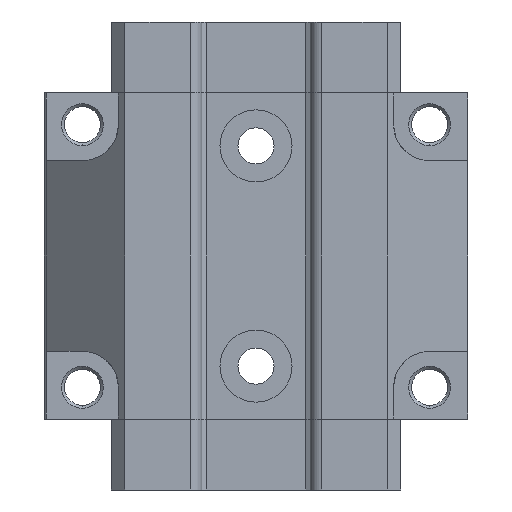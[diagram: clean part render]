
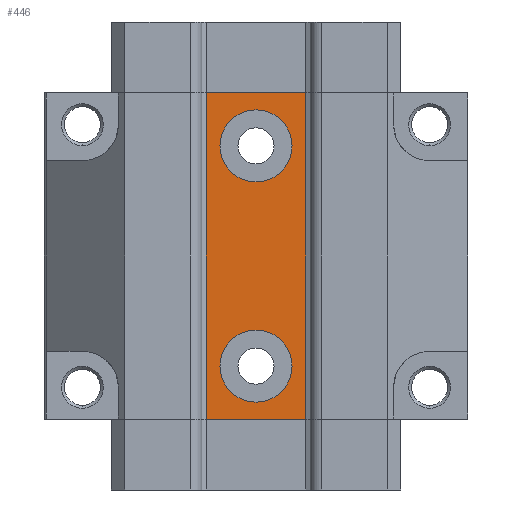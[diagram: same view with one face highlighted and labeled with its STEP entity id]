
A CAD part, front view. The second image highlights one B-rep face of the part: STEP entity #446.
In plain terms, the highlighted planar face has unit normal (0, -1, 0).
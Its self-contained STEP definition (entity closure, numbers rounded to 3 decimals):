
#272 = EDGE_CURVE ( 'NONE', #484, #417, #2221, .T. ) ;
#273 = ORIENTED_EDGE ( 'NONE', *, *, #315, .F. ) ;
#276 = ORIENTED_EDGE ( 'NONE', *, *, #277, .F. ) ;
#277 = EDGE_CURVE ( 'NONE', #372, #375, #2212, .T. ) ;
#278 = ORIENTED_EDGE ( 'NONE', *, *, #371, .T. ) ;
#279 = ORIENTED_EDGE ( 'NONE', *, *, #272, .T. ) ;
#280 = ORIENTED_EDGE ( 'NONE', *, *, #1963, .F. ) ;
#281 = EDGE_LOOP ( 'NONE', ( #276, #278, #279, #273 ) ) ;
#282 = EDGE_LOOP ( 'NONE', ( #283, #280 ) ) ;
#283 = ORIENTED_EDGE ( 'NONE', *, *, #284, .F. ) ;
#284 = EDGE_CURVE ( 'NONE', #1988, #1987, #2207, .T. ) ;
#285 = EDGE_LOOP ( 'NONE', ( #286, #288 ) ) ;
#286 = ORIENTED_EDGE ( 'NONE', *, *, #287, .F. ) ;
#287 = EDGE_CURVE ( 'NONE', #1936, #1933, #2260, .T. ) ;
#288 = ORIENTED_EDGE ( 'NONE', *, *, #1935, .F. ) ;
#315 = EDGE_CURVE ( 'NONE', #375, #417, #2309, .T. ) ;
#371 = EDGE_CURVE ( 'NONE', #372, #484, #2380, .T. ) ;
#372 = VERTEX_POINT ( 'NONE', #2392 ) ;
#375 = VERTEX_POINT ( 'NONE', #2394 ) ;
#417 = VERTEX_POINT ( 'NONE', #2462 ) ;
#446 = ADVANCED_FACE ( 'NONE', ( #2496, #2495, #2494 ), #2520, .F. ) ;
#484 = VERTEX_POINT ( 'NONE', #2635 ) ;
#1933 = VERTEX_POINT ( 'NONE', #4325 ) ;
#1935 = EDGE_CURVE ( 'NONE', #1933, #1936, #4331, .T. ) ;
#1936 = VERTEX_POINT ( 'NONE', #4332 ) ;
#1963 = EDGE_CURVE ( 'NONE', #1987, #1988, #4170, .T. ) ;
#1987 = VERTEX_POINT ( 'NONE', #4471 ) ;
#1988 = VERTEX_POINT ( 'NONE', #4476 ) ;
#2203 = DIRECTION ( 'NONE',  ( 0., 0., -1. ) ) ;
#2204 = DIRECTION ( 'NONE',  ( 0., -1., 0. ) ) ;
#2205 = CARTESIAN_POINT ( 'NONE',  ( 0., 4.6, -26. ) ) ;
#2206 = AXIS2_PLACEMENT_3D ( 'NONE', #2205, #2204, #2203 ) ;
#2207 = CIRCLE ( 'NONE', #2206, 8.5 ) ;
#2209 = DIRECTION ( 'NONE',  ( 0., 0., 1. ) ) ;
#2210 = VECTOR ( 'NONE', #2209, 1000. ) ;
#2211 = CARTESIAN_POINT ( 'NONE',  ( -15.761, 4.6, -55.25 ) ) ;
#2212 = LINE ( 'NONE', #2211, #2210 ) ;
#2218 = DIRECTION ( 'NONE',  ( 0., 0., 1. ) ) ;
#2219 = VECTOR ( 'NONE', #2218, 1000. ) ;
#2220 = CARTESIAN_POINT ( 'NONE',  ( 15.761, 4.6, -55.25 ) ) ;
#2221 = LINE ( 'NONE', #2220, #2219 ) ;
#2255 = CARTESIAN_POINT ( 'NONE',  ( 0., 4.6, 26. ) ) ;
#2257 = DIRECTION ( 'NONE',  ( 0., 0., -1. ) ) ;
#2258 = DIRECTION ( 'NONE',  ( 0., -1., 0. ) ) ;
#2259 = AXIS2_PLACEMENT_3D ( 'NONE', #2255, #2258, #2257 ) ;
#2260 = CIRCLE ( 'NONE', #2259, 8.5 ) ;
#2306 = DIRECTION ( 'NONE',  ( 1., 0., 0. ) ) ;
#2307 = VECTOR ( 'NONE', #2306, 1000. ) ;
#2308 = CARTESIAN_POINT ( 'NONE',  ( -50., 4.6, 38.5 ) ) ;
#2309 = LINE ( 'NONE', #2308, #2307 ) ;
#2380 = LINE ( 'NONE', #2391, #2390 ) ;
#2389 = DIRECTION ( 'NONE',  ( 1., 0., 0. ) ) ;
#2390 = VECTOR ( 'NONE', #2389, 1000. ) ;
#2391 = CARTESIAN_POINT ( 'NONE',  ( -50., 4.6, -38.5 ) ) ;
#2392 = CARTESIAN_POINT ( 'NONE',  ( -15.761, 4.6, -38.5 ) ) ;
#2394 = CARTESIAN_POINT ( 'NONE',  ( -15.761, 4.6, 38.5 ) ) ;
#2462 = CARTESIAN_POINT ( 'NONE',  ( 15.761, 4.6, 38.5 ) ) ;
#2494 = FACE_OUTER_BOUND ( 'NONE', #281, .T. ) ;
#2495 = FACE_BOUND ( 'NONE', #282, .T. ) ;
#2496 = FACE_BOUND ( 'NONE', #285, .T. ) ;
#2516 = DIRECTION ( 'NONE',  ( 0., 0., 1. ) ) ;
#2517 = DIRECTION ( 'NONE',  ( 0., 1., 0. ) ) ;
#2518 = CARTESIAN_POINT ( 'NONE',  ( -15.761, 4.6, -55.25 ) ) ;
#2519 = AXIS2_PLACEMENT_3D ( 'NONE', #2518, #2517, #2516 ) ;
#2520 = PLANE ( 'NONE',  #2519 ) ;
#2635 = CARTESIAN_POINT ( 'NONE',  ( 15.761, 4.6, -38.5 ) ) ;
#4165 = CARTESIAN_POINT ( 'NONE',  ( 0., 4.6, -26. ) ) ;
#4169 = AXIS2_PLACEMENT_3D ( 'NONE', #4165, #4177, #4176 ) ;
#4170 = CIRCLE ( 'NONE', #4169, 8.5 ) ;
#4176 = DIRECTION ( 'NONE',  ( 0., 0., -1. ) ) ;
#4177 = DIRECTION ( 'NONE',  ( 0., -1., 0. ) ) ;
#4325 = CARTESIAN_POINT ( 'NONE',  ( 0., 4.6, 34.5 ) ) ;
#4331 = CIRCLE ( 'NONE', #4341, 8.5 ) ;
#4332 = CARTESIAN_POINT ( 'NONE',  ( 0., 4.6, 17.5 ) ) ;
#4337 = DIRECTION ( 'NONE',  ( 0., 0., -1. ) ) ;
#4339 = DIRECTION ( 'NONE',  ( 0., -1., 0. ) ) ;
#4340 = CARTESIAN_POINT ( 'NONE',  ( 0., 4.6, 26. ) ) ;
#4341 = AXIS2_PLACEMENT_3D ( 'NONE', #4340, #4339, #4337 ) ;
#4471 = CARTESIAN_POINT ( 'NONE',  ( 0., 4.6, -17.5 ) ) ;
#4476 = CARTESIAN_POINT ( 'NONE',  ( 0., 4.6, -34.5 ) ) ;
